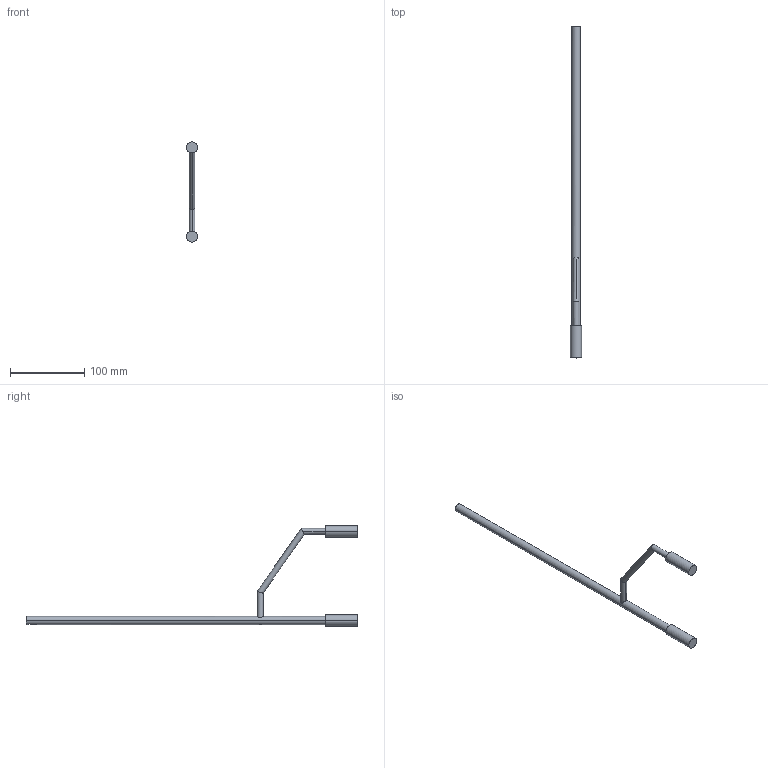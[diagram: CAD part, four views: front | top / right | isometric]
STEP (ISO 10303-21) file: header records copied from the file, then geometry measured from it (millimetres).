
FILE_DESCRIPTION (( 'STEP AP214' ), '1' );
FILE_NAME ('2S_RUL_Frontstütze_O710701300_450.step', '2010-09-07T14:19:17', ( 'grass' ), ( '' ), 'SwSTEP 2.0', 'SolidWorks 2010', '' );
FILE_SCHEMA (( 'AUTOMOTIVE_DESIGN' ));
Length unit declared in the file: millimetre
Products named in the file (1): 2S_RUL_Frontstütze_O710701300_450
Bounding box: 15 x 447.05 x 135 mm (x, y, z)
Volume: 36608.9 mm3; surface area: 34292.8 mm2
Topology: 1 solids, 1 shells, 33 faces, 74 edges, 48 vertices
Faces by surface type: cylinder 18, plane 15
Entity records: 1240 total; most frequent: CARTESIAN_POINT 454, DIRECTION 148, ORIENTED_EDGE 148, EDGE_CURVE 74, AXIS2_PLACEMENT_3D 56, VERTEX_POINT 48, EDGE_LOOP 42, VECTOR 36
